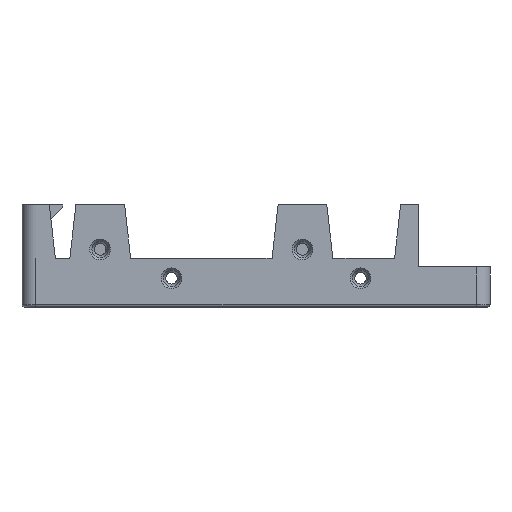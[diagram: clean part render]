
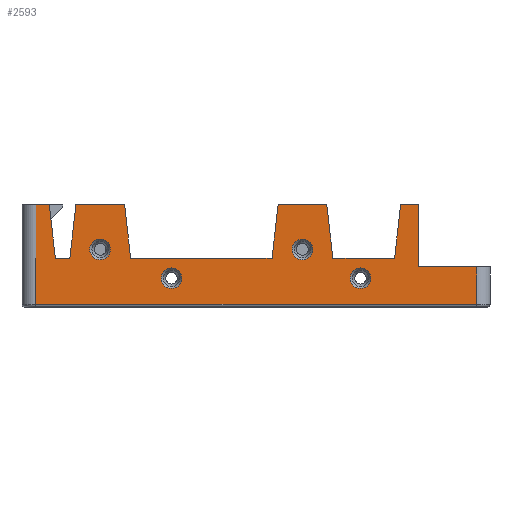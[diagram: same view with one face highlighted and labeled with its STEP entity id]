
A CAD part, front view. The second image highlights one B-rep face of the part: STEP entity #2593.
In plain terms, the highlighted planar face has unit normal (0, -1, 0).
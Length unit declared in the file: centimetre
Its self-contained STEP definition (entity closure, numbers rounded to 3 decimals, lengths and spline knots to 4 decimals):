
#147=FACE_BOUND($,#591,.T.);
#148=FACE_BOUND($,#592,.T.);
#149=FACE_BOUND($,#593,.T.);
#150=FACE_BOUND($,#594,.T.);
#151=FACE_BOUND($,#595,.T.);
#255=CIRCLE($,#2832,0.227);
#256=CIRCLE($,#2833,0.227);
#257=CIRCLE($,#2834,0.227);
#258=CIRCLE($,#2835,0.227);
#591=EDGE_LOOP($,(#2181));
#592=EDGE_LOOP($,(#2182));
#593=EDGE_LOOP($,(#2183,#2184,#2185,#2186,#2187,#2188,#2189,#2190,#2191,
#2192,#2193,#2194,#2195,#2196,#2197,#2198,#2199,#2200,#2201,#2202));
#594=EDGE_LOOP($,(#2203));
#595=EDGE_LOOP($,(#2204));
#759=LINE($,#3906,#980);
#774=LINE($,#3939,#995);
#780=LINE($,#3969,#1001);
#781=LINE($,#3970,#1002);
#782=LINE($,#3971,#1003);
#846=LINE($,#4288,#1067);
#849=LINE($,#4298,#1070);
#850=LINE($,#4300,#1071);
#851=LINE($,#4302,#1072);
#852=LINE($,#4304,#1073);
#853=LINE($,#4306,#1074);
#854=LINE($,#4308,#1075);
#855=LINE($,#4310,#1076);
#856=LINE($,#4312,#1077);
#857=LINE($,#4314,#1078);
#858=LINE($,#4316,#1079);
#859=LINE($,#4318,#1080);
#860=LINE($,#4320,#1081);
#861=LINE($,#4322,#1082);
#862=LINE($,#4323,#1083);
#980=VECTOR($,#3093,0.3);
#995=VECTOR($,#3124,1.1782);
#1001=VECTOR($,#3162,0.);
#1002=VECTOR($,#3163,1.1705);
#1003=VECTOR($,#3164,1.0195);
#1067=VECTOR($,#3446,0.3179);
#1070=VECTOR($,#3455,9.703);
#1071=VECTOR($,#3456,0.825);
#1072=VECTOR($,#3457,1.2693);
#1073=VECTOR($,#3458,1.365);
#1074=VECTOR($,#3459,0.4);
#1075=VECTOR($,#3460,1.1782);
#1076=VECTOR($,#3461,1.3576);
#1077=VECTOR($,#3462,1.1782);
#1078=VECTOR($,#3463,1.07);
#1079=VECTOR($,#3464,1.1782);
#1080=VECTOR($,#3465,3.1109);
#1081=VECTOR($,#3466,1.1782);
#1082=VECTOR($,#3467,1.07);
#1083=VECTOR($,#3468,1.1782);
#1202=VERTEX_POINT($,#3903);
#1203=VERTEX_POINT($,#3905);
#1213=VERTEX_POINT($,#3938);
#1216=VERTEX_POINT($,#3950);
#1220=VERTEX_POINT($,#3967);
#1221=VERTEX_POINT($,#3968);
#1299=VERTEX_POINT($,#4287);
#1301=VERTEX_POINT($,#4293);
#1302=VERTEX_POINT($,#4295);
#1303=VERTEX_POINT($,#4297);
#1304=VERTEX_POINT($,#4299);
#1305=VERTEX_POINT($,#4301);
#1306=VERTEX_POINT($,#4303);
#1307=VERTEX_POINT($,#4305);
#1308=VERTEX_POINT($,#4307);
#1309=VERTEX_POINT($,#4309);
#1310=VERTEX_POINT($,#4311);
#1311=VERTEX_POINT($,#4313);
#1312=VERTEX_POINT($,#4315);
#1313=VERTEX_POINT($,#4317);
#1314=VERTEX_POINT($,#4319);
#1315=VERTEX_POINT($,#4321);
#1316=VERTEX_POINT($,#4324);
#1317=VERTEX_POINT($,#4326);
#1469=EDGE_CURVE($,#1202,#1203,#759,.F.);
#1486=EDGE_CURVE($,#1213,#1203,#774,.T.);
#1501=EDGE_CURVE($,#1220,#1221,#780,.T.);
#1502=EDGE_CURVE($,#1220,#1202,#781,.T.);
#1503=EDGE_CURVE($,#1216,#1221,#782,.T.);
#1615=EDGE_CURVE($,#1299,#1213,#846,.T.);
#1618=EDGE_CURVE($,#1301,#1301,#255,.T.);
#1619=EDGE_CURVE($,#1302,#1302,#256,.T.);
#1620=EDGE_CURVE($,#1303,#1216,#849,.T.);
#1621=EDGE_CURVE($,#1304,#1303,#850,.T.);
#1622=EDGE_CURVE($,#1305,#1304,#851,.F.);
#1623=EDGE_CURVE($,#1306,#1305,#852,.T.);
#1624=EDGE_CURVE($,#1307,#1306,#853,.F.);
#1625=EDGE_CURVE($,#1307,#1308,#854,.T.);
#1626=EDGE_CURVE($,#1308,#1309,#855,.T.);
#1627=EDGE_CURVE($,#1309,#1310,#856,.T.);
#1628=EDGE_CURVE($,#1311,#1310,#857,.F.);
#1629=EDGE_CURVE($,#1311,#1312,#858,.T.);
#1630=EDGE_CURVE($,#1312,#1313,#859,.F.);
#1631=EDGE_CURVE($,#1313,#1314,#860,.T.);
#1632=EDGE_CURVE($,#1315,#1314,#861,.F.);
#1633=EDGE_CURVE($,#1315,#1299,#862,.T.);
#1634=EDGE_CURVE($,#1316,#1316,#257,.T.);
#1635=EDGE_CURVE($,#1317,#1317,#258,.T.);
#2181=ORIENTED_EDGE($,*,*,#1618,.F.);
#2182=ORIENTED_EDGE($,*,*,#1619,.F.);
#2183=ORIENTED_EDGE($,*,*,#1620,.F.);
#2184=ORIENTED_EDGE($,*,*,#1621,.F.);
#2185=ORIENTED_EDGE($,*,*,#1622,.F.);
#2186=ORIENTED_EDGE($,*,*,#1623,.F.);
#2187=ORIENTED_EDGE($,*,*,#1624,.F.);
#2188=ORIENTED_EDGE($,*,*,#1625,.T.);
#2189=ORIENTED_EDGE($,*,*,#1626,.T.);
#2190=ORIENTED_EDGE($,*,*,#1627,.T.);
#2191=ORIENTED_EDGE($,*,*,#1628,.F.);
#2192=ORIENTED_EDGE($,*,*,#1629,.T.);
#2193=ORIENTED_EDGE($,*,*,#1630,.T.);
#2194=ORIENTED_EDGE($,*,*,#1631,.T.);
#2195=ORIENTED_EDGE($,*,*,#1632,.F.);
#2196=ORIENTED_EDGE($,*,*,#1633,.T.);
#2197=ORIENTED_EDGE($,*,*,#1615,.T.);
#2198=ORIENTED_EDGE($,*,*,#1486,.T.);
#2199=ORIENTED_EDGE($,*,*,#1469,.F.);
#2200=ORIENTED_EDGE($,*,*,#1502,.F.);
#2201=ORIENTED_EDGE($,*,*,#1501,.T.);
#2202=ORIENTED_EDGE($,*,*,#1503,.F.);
#2203=ORIENTED_EDGE($,*,*,#1634,.F.);
#2204=ORIENTED_EDGE($,*,*,#1635,.F.);
#2468=PLANE($,#2831);
#2593=ADVANCED_FACE($,(#147,#148,#149,#150,#151),#2468,.F.);
#2831=AXIS2_PLACEMENT_3D($,#4292,#3449,#3450);
#2832=AXIS2_PLACEMENT_3D($,#4294,#3451,#3452);
#2833=AXIS2_PLACEMENT_3D($,#4296,#3453,#3454);
#2834=AXIS2_PLACEMENT_3D($,#4325,#3469,#3470);
#2835=AXIS2_PLACEMENT_3D($,#4327,#3471,#3472);
#3093=DIRECTION($,(-1.,0.,0.));
#3124=DIRECTION($,(-0.114,0.,0.993));
#3162=DIRECTION($,(-1.,0.,0.));
#3163=DIRECTION($,(0.,0.,1.));
#3164=DIRECTION($,(0.,0.,1.));
#3446=DIRECTION($,(-1.,0.,0.));
#3449=DIRECTION('center_axis',(0.,1.,0.));
#3450=DIRECTION('ref_axis',(0.,0.,1.));
#3451=DIRECTION('center_axis',(0.,-1.,0.));
#3452=DIRECTION('ref_axis',(1.,0.,0.));
#3453=DIRECTION('center_axis',(0.,-1.,0.));
#3454=DIRECTION('ref_axis',(1.,0.,0.));
#3455=DIRECTION($,(-1.,0.,0.));
#3456=DIRECTION($,(0.,0.,-1.));
#3457=DIRECTION($,(-1.,0.,0.));
#3458=DIRECTION($,(0.,0.,-1.));
#3459=DIRECTION($,(-1.,0.,0.));
#3460=DIRECTION($,(-0.114,0.,-0.993));
#3461=DIRECTION($,(-1.,0.,0.));
#3462=DIRECTION($,(-0.114,0.,0.993));
#3463=DIRECTION($,(-1.,0.,0.));
#3464=DIRECTION($,(-0.114,0.,-0.993));
#3465=DIRECTION($,(1.,0.,0.));
#3466=DIRECTION($,(-0.114,0.,0.993));
#3467=DIRECTION($,(-1.,0.,0.));
#3468=DIRECTION($,(-0.114,0.,-0.993));
#3469=DIRECTION('center_axis',(0.,-1.,0.));
#3470=DIRECTION('ref_axis',(1.,0.,0.));
#3471=DIRECTION('center_axis',(0.,-1.,0.));
#3472=DIRECTION('ref_axis',(1.,0.,0.));
#3903=CARTESIAN_POINT('',(-48.156,-75.053,1.3305));
#3905=CARTESIAN_POINT('',(-47.856,-75.053,1.3305));
#3906=CARTESIAN_POINT($,(-41.106,-75.053,1.3305));
#3938=CARTESIAN_POINT('',(-47.7214,-75.053,0.16));
#3939=CARTESIAN_POINT($,(-47.6863,-75.053,-0.1457));
#3950=CARTESIAN_POINT('',(-48.156,-75.053,-0.8595));
#3967=CARTESIAN_POINT('',(-48.156,-75.053,0.16));
#3968=CARTESIAN_POINT('',(-48.156,-75.053,0.16));
#3969=CARTESIAN_POINT($,(-46.9125,-75.053,0.16));
#3970=CARTESIAN_POINT($,(-48.156,-75.053,-0.0295));
#3971=CARTESIAN_POINT($,(-48.156,-75.053,0.088));
#4287=CARTESIAN_POINT('',(-47.4035,-75.053,0.16));
#4288=CARTESIAN_POINT($,(-46.9125,-75.053,0.16));
#4292=CARTESIAN_POINT('Origin',(-45.506,-75.053,-0.0295));
#4293=CARTESIAN_POINT('',(-41.233,-75.053,-0.2845));
#4294=CARTESIAN_POINT('Origin',(-41.006,-75.053,-0.2845));
#4295=CARTESIAN_POINT('',(-45.393,-75.053,-0.2845));
#4296=CARTESIAN_POINT('Origin',(-45.166,-75.053,-0.2845));
#4297=CARTESIAN_POINT('',(-38.453,-75.053,-0.8595));
#4298=CARTESIAN_POINT($,(-45.506,-75.053,-0.8595));
#4299=CARTESIAN_POINT('',(-38.453,-75.053,-0.0345));
#4300=CARTESIAN_POINT($,(-38.453,-75.053,-0.3798));
#4301=CARTESIAN_POINT('',(-39.7223,-75.053,-0.0345));
#4302=CARTESIAN_POINT($,(-42.2226,-75.053,-0.0345));
#4303=CARTESIAN_POINT('',(-39.7223,-75.053,1.3305));
#4304=CARTESIAN_POINT($,(-39.7223,-75.053,0.088));
#4305=CARTESIAN_POINT('',(-40.1223,-75.053,1.3305));
#4306=CARTESIAN_POINT($,(-45.506,-75.053,1.3305));
#4307=CARTESIAN_POINT('',(-40.2568,-75.053,0.16));
#4308=CARTESIAN_POINT($,(-40.2831,-75.053,-0.0682));
#4309=CARTESIAN_POINT('',(-41.6144,-75.053,0.16));
#4310=CARTESIAN_POINT($,(-43.1708,-75.053,0.16));
#4311=CARTESIAN_POINT('',(-41.7489,-75.053,1.3305));
#4312=CARTESIAN_POINT($,(-41.6477,-75.053,0.4503));
#4313=CARTESIAN_POINT('',(-42.819,-75.053,1.3305));
#4314=CARTESIAN_POINT($,(-45.506,-75.053,1.3305));
#4315=CARTESIAN_POINT('',(-42.9535,-75.053,0.16));
#4316=CARTESIAN_POINT($,(-42.9622,-75.053,0.0847));
#4317=CARTESIAN_POINT('',(-46.0644,-75.053,0.16));
#4318=CARTESIAN_POINT($,(-45.336,-75.053,0.16));
#4319=CARTESIAN_POINT('',(-46.199,-75.053,1.3305));
#4320=CARTESIAN_POINT($,(-46.0688,-75.053,0.1978));
#4321=CARTESIAN_POINT('',(-47.269,-75.053,1.3305));
#4322=CARTESIAN_POINT($,(-45.506,-75.053,1.3305));
#4323=CARTESIAN_POINT($,(-47.3832,-75.053,0.3371));
#4324=CARTESIAN_POINT('',(-46.963,-75.053,0.3505));
#4325=CARTESIAN_POINT('Origin',(-46.736,-75.053,0.3505));
#4326=CARTESIAN_POINT('',(-42.513,-75.053,0.3505));
#4327=CARTESIAN_POINT('Origin',(-42.286,-75.053,0.3505));
